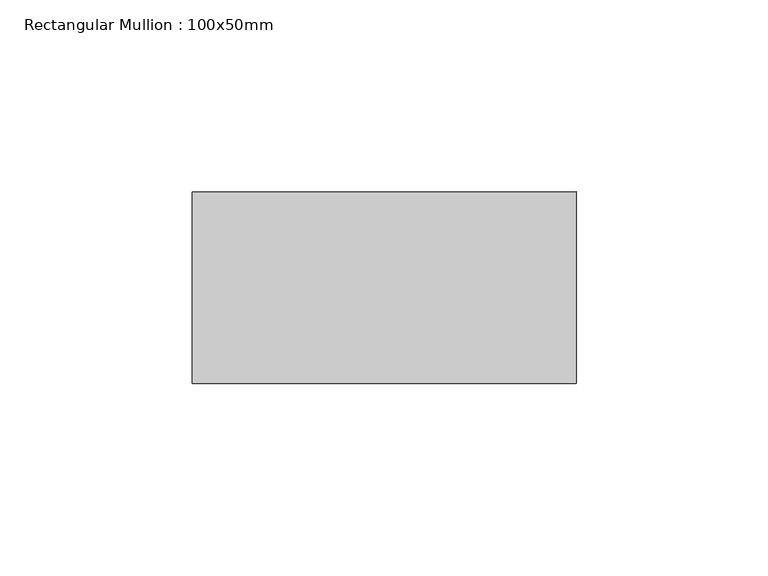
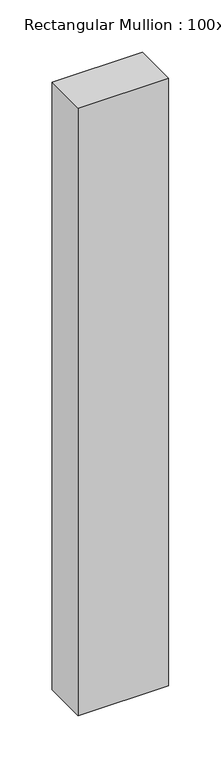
"""IFC4 building model written with IfcOpenShell, lengths in millimetres: member geometry, Rectangular Mullion : 100x50mm."""

from ifc_helpers import new_model, si_unit, frame, origin, place, context, project, spatial, polyline, outline, extrude, source, transform, mapped, element, save


def rectangular_mullion_100x50mm_d9b4d42f(model_context):
    return source(origin(), model_context, "Body", "SweptSolid", [
        extrude(outline(polyline([(0.0, 25.0), (0.0, -25.0), (-100.0, -25.0), (-100.0, 25.0), (0.0, 25.0)])), frame((0.0, 0.0, -710.001677), z_axis=(0.0, 0.0, 1.0), x_axis=(1.0, 0.0, 0.0)), (0.0, 0.0, 1.0), 710.001677),
    ])


if __name__ == "__main__":
    model = new_model("IFC4")
    model_context = context("Model", 3, world=origin())
    ifc_project = project(units=[si_unit("LENGTHUNIT", "METRE", prefix="MILLI")], contexts=[model_context])
    site = spatial("IfcSite", under=ifc_project)
    building = spatial("IfcBuilding", under=site)
    placement = place(None, origin())
    rectangular_mullion_100x50mm_shape = rectangular_mullion_100x50mm_d9b4d42f(model_context)
    element("IfcMember", 1, ObjectType="Rectangular Mullion : 100x50mm", at=placement, inside=building, context=model_context, shape_type="MappedRepresentation", body=[
        mapped(rectangular_mullion_100x50mm_shape, transform((0.0, 0.0, 0.0), x_axis=(1.0, 0.0, 0.0), y_axis=(0.0, 1.0, 0.0), z_axis=(0.0, 0.0, 1.0))),
    ])
    save(model, "model.ifc")
